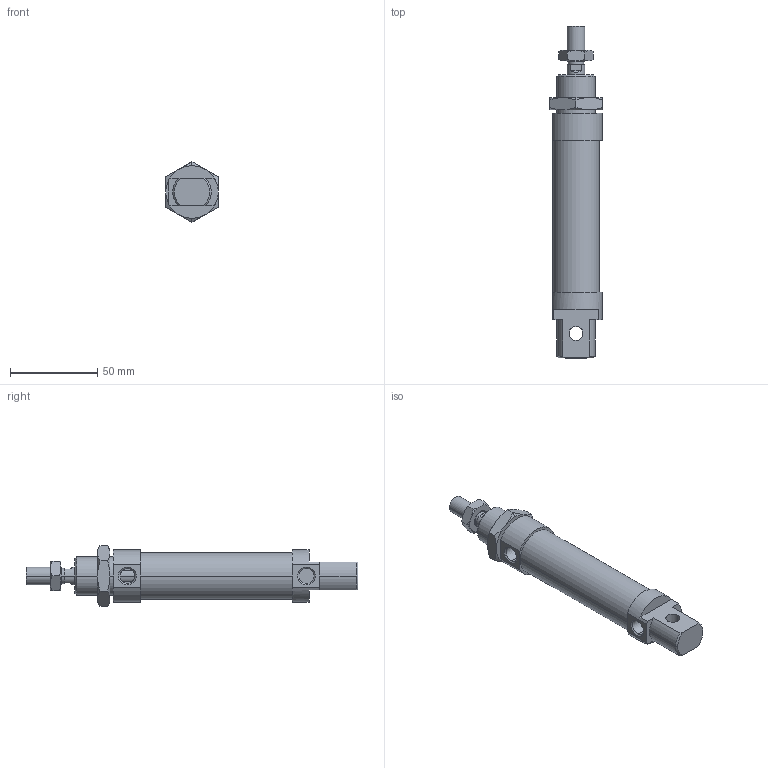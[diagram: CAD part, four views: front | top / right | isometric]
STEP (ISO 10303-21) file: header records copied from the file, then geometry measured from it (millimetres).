
FILE_DESCRIPTION((''),'2;1');
FILE_NAME('I:\DOC-EDP\Lib-3d\1200\CILINDRI\1280\1280_25_0050.stp','2003-04-07T17:59:55',('maffial1'),(''),'Autodesk Inventor (R) 6.0','Autodesk Inventor (R) 6.0','');
FILE_SCHEMA(('AUTOMOTIVE_DESIGN { 1 0 10303 214 1 1 1 1 }'));
Length unit declared in the file: millimetre
Products named in the file (5): 1280_25_0050; S1280_25_50; 1200_25_05; 1200_25_06; C1280_25_50
Assembly tree (4 placements, depth 2):
  1280_25_0050
    S1280_25_50
    1200_25_05
    1200_25_06
    C1280_25_50
Bounding box: 30 x 190 x 34.64 mm (x, y, z)
Volume: 87664.4 mm3; surface area: 24730.2 mm2
Topology: 4 solids, 4 shells, 124 faces, 281 edges, 170 vertices
Faces by surface type: plane 41, cone 40, cylinder 22, bspline 21
Entity records: 3808 total; most frequent: CARTESIAN_POINT 1031, DIRECTION 573, ORIENTED_EDGE 562, EDGE_CURVE 281, AXIS2_PLACEMENT_3D 236, VERTEX_POINT 170, EDGE_LOOP 137, FACE_OUTER_BOUND 124
